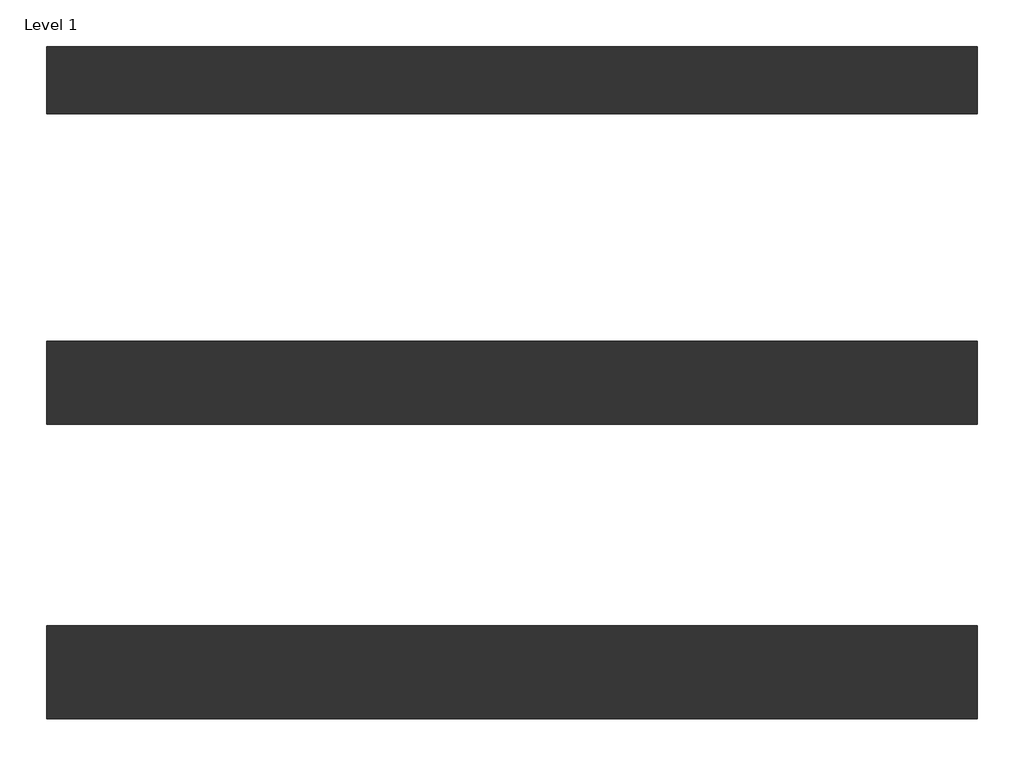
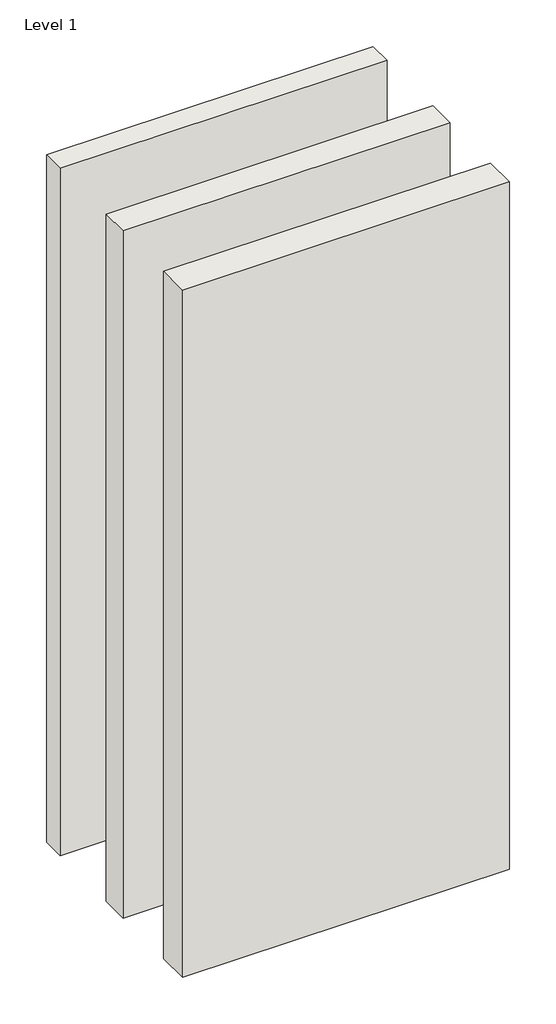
# One storey: 3 walls.
"""IFC4 building model written with IfcOpenShell, lengths in millimetres."""

from ifc_helpers import new_model, si_unit, origin, origin_with_axes, place, context, project, spatial, polyline, outline, extrude, element, save

model = new_model("IFC4")

# Units and contexts
model_context = context("Model", 3, world=origin())
ifc_project = project(units=[si_unit("LENGTHUNIT", "METRE", prefix="MILLI")], contexts=[model_context])

# Site, building, storey
site = spatial("IfcSite", under=ifc_project)
building = spatial("IfcBuilding", under=site)
storey = spatial("IfcBuildingStorey", under=building, Name="Level 1", Elevation=0.0)

# Walls
placement = place(None, origin())
element("IfcWall", 1, ObjectType="Interior-Timber Frame-Staggered Stud-CSR2215-130mm", at=placement, inside=storey, context=model_context, shape_type="SweptSolid", body=[
    extrude(outline(polyline([(1209.1027791, -2951.5592728), (3009.1027791, -2951.5592728), (3009.1027791, -3081.5592728), (1209.1027791, -3081.5592728), (1209.1027791, -2951.5592728)])), origin_with_axes(), (0.0, 0.0, 1.0), 4000.0),
])
element("IfcWall", 2, ObjectType="Interior-Timber Frame-Staggered Stud-CSR2215-160mm", at=placement, inside=storey, context=model_context, shape_type="SweptSolid", body=[
    extrude(outline(polyline([(1209.1027791, -3521.5592728), (3009.1027791, -3521.5592728), (3009.1027791, -3681.5592728), (1209.1027791, -3681.5592728), (1209.1027791, -3521.5592728)])), origin_with_axes(), (0.0, 0.0, 1.0), 4000.0),
])
element("IfcWall", 3, ObjectType="Interior-Timber Frame-Staggered Stud-CSR2215-180mm", at=placement, inside=storey, context=model_context, shape_type="SweptSolid", body=[
    extrude(outline(polyline([(1209.1027791, -4071.5592728), (3009.1027791, -4071.5592728), (3009.1027791, -4251.5592728), (1209.1027791, -4251.5592728), (1209.1027791, -4071.5592728)])), origin_with_axes(), (0.0, 0.0, 1.0), 4000.0),
])

save(model, "model.ifc")
